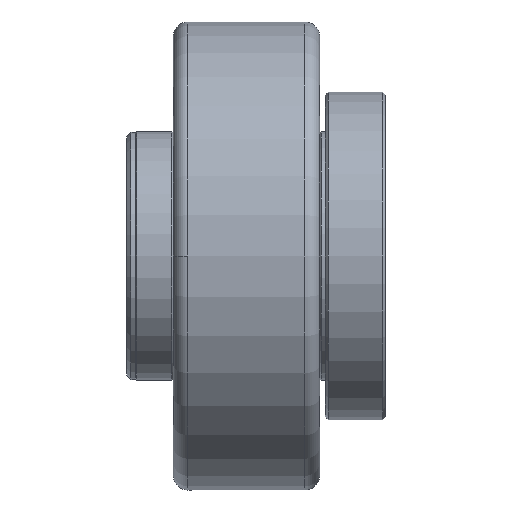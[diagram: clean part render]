
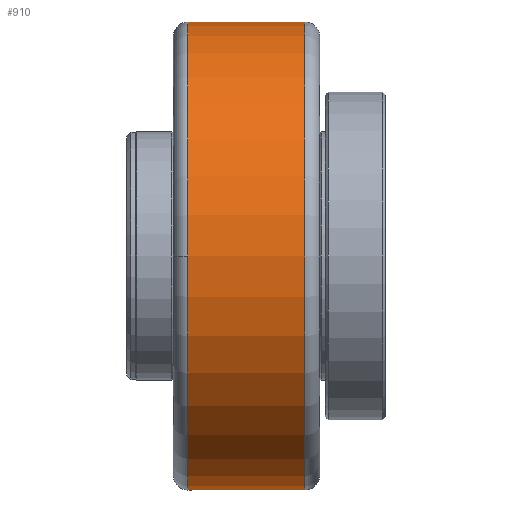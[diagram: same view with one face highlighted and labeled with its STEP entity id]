
A CAD part, front view. The second image highlights one B-rep face of the part: STEP entity #910.
In plain terms, the highlighted cylindrical face has radius 80 mm (diameter 160 mm), a partial arc.
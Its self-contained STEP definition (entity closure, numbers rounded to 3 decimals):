
#588 = EDGE_CURVE ( 'NONE', #9156, #5169, #19295, .T. ) ;
#910 = ADVANCED_FACE ( 'NONE', ( #990 ), #25816, .T. ) ;
#990 = FACE_OUTER_BOUND ( 'NONE', #20327, .T. ) ;
#2691 = CARTESIAN_POINT ( 'NONE',  ( 948., 0., -80. ) ) ;
#2703 = CARTESIAN_POINT ( 'NONE',  ( 993., 0., -80. ) ) ;
#3376 = DIRECTION ( 'NONE',  ( -1., 0., 0. ) ) ;
#4925 = CIRCLE ( 'NONE', #30439, 80. ) ;
#5169 = VERTEX_POINT ( 'NONE', #29908 ) ;
#5770 = DIRECTION ( 'NONE',  ( 0., 1., 0. ) ) ;
#6603 = EDGE_CURVE ( 'NONE', #16386, #25263, #27411, .T. ) ;
#8855 = DIRECTION ( 'NONE',  ( -1., 0., 0. ) ) ;
#9125 = CARTESIAN_POINT ( 'NONE',  ( 993., 0., 80. ) ) ;
#9156 = VERTEX_POINT ( 'NONE', #16222 ) ;
#9394 = VERTEX_POINT ( 'NONE', #32263 ) ;
#10162 = DIRECTION ( 'NONE',  ( 1., 0., 0. ) ) ;
#10650 = CARTESIAN_POINT ( 'NONE',  ( 948., 0., 0. ) ) ;
#11557 = VECTOR ( 'NONE', #8855, 1000. ) ;
#12260 = AXIS2_PLACEMENT_3D ( 'NONE', #10650, #37478, #34471 ) ;
#13847 = DIRECTION ( 'NONE',  ( -1., 0., 0. ) ) ;
#14204 = AXIS2_PLACEMENT_3D ( 'NONE', #34238, #13847, #22339 ) ;
#14526 = CIRCLE ( 'NONE', #12260, 80. ) ;
#15292 = ORIENTED_EDGE ( 'NONE', *, *, #588, .T. ) ;
#15808 = DIRECTION ( 'NONE',  ( 0., -1., 0. ) ) ;
#16222 = CARTESIAN_POINT ( 'NONE',  ( 988., 0., 80. ) ) ;
#16386 = VERTEX_POINT ( 'NONE', #20890 ) ;
#18354 = VECTOR ( 'NONE', #3376, 1000. ) ;
#19192 = CARTESIAN_POINT ( 'NONE',  ( 988., 0., 0. ) ) ;
#19295 = LINE ( 'NONE', #9125, #18354 ) ;
#20186 = CIRCLE ( 'NONE', #28285, 80. ) ;
#20327 = EDGE_LOOP ( 'NONE', ( #30666, #26892, #15292, #23433, #28317 ) ) ;
#20890 = CARTESIAN_POINT ( 'NONE',  ( 988., 0., -80. ) ) ;
#22339 = DIRECTION ( 'NONE',  ( 0., 0., 1. ) ) ;
#23433 = ORIENTED_EDGE ( 'NONE', *, *, #27357, .F. ) ;
#23914 = DIRECTION ( 'NONE',  ( -1., 0., 0. ) ) ;
#24043 = CARTESIAN_POINT ( 'NONE',  ( 948., 0., 0. ) ) ;
#24419 = EDGE_CURVE ( 'NONE', #9156, #16386, #4925, .T. ) ;
#25263 = VERTEX_POINT ( 'NONE', #2691 ) ;
#25816 = CYLINDRICAL_SURFACE ( 'NONE', #14204, 80. ) ;
#26892 = ORIENTED_EDGE ( 'NONE', *, *, #24419, .F. ) ;
#27357 = EDGE_CURVE ( 'NONE', #9394, #5169, #20186, .T. ) ;
#27411 = LINE ( 'NONE', #2703, #11557 ) ;
#27536 = EDGE_CURVE ( 'NONE', #25263, #9394, #14526, .T. ) ;
#28285 = AXIS2_PLACEMENT_3D ( 'NONE', #24043, #23914, #5770 ) ;
#28317 = ORIENTED_EDGE ( 'NONE', *, *, #27536, .F. ) ;
#29908 = CARTESIAN_POINT ( 'NONE',  ( 948., 0., 80. ) ) ;
#30439 = AXIS2_PLACEMENT_3D ( 'NONE', #19192, #10162, #15808 ) ;
#30666 = ORIENTED_EDGE ( 'NONE', *, *, #6603, .F. ) ;
#32263 = CARTESIAN_POINT ( 'NONE',  ( 948., -80., 0. ) ) ;
#34238 = CARTESIAN_POINT ( 'NONE',  ( 993., 0., 0. ) ) ;
#34471 = DIRECTION ( 'NONE',  ( 0., 1., 0. ) ) ;
#37478 = DIRECTION ( 'NONE',  ( -1., 0., 0. ) ) ;
